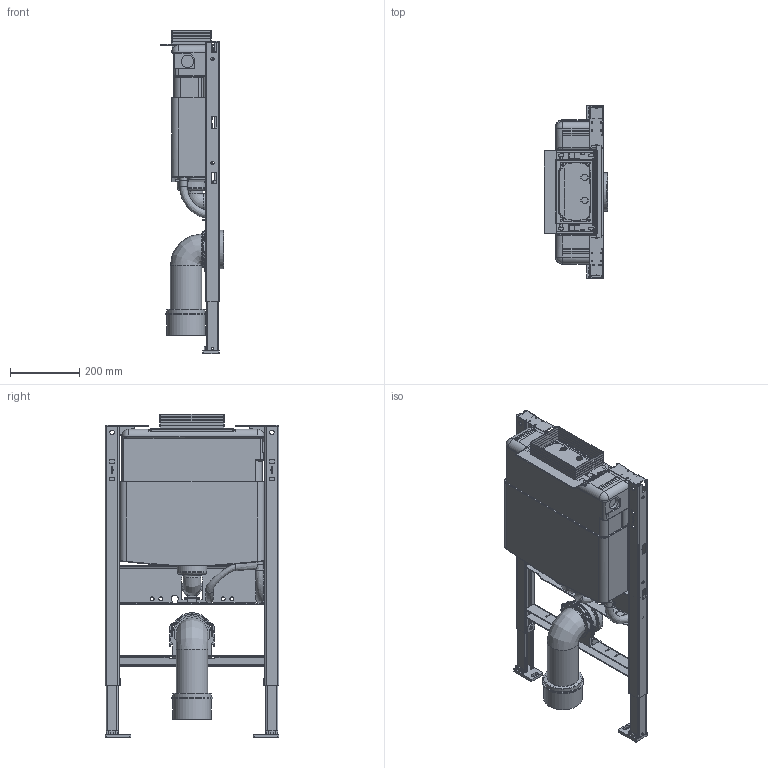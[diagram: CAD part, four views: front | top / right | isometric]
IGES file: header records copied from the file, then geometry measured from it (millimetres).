
Global section: file name: 111003; native system: Autodesk Inventor 2014; preprocessor: unknown; author: seihe2; date: 20141022.083248; units: millimetre
Bounding box: 183.26 x 500 x 932 mm (x, y, z)
Volume: 12239993.9 mm3; surface area: 2485387.7 mm2
Topology: 25 solids, 26 shells, 1818 faces, 4867 edges, 3100 vertices
Faces by surface type: plane 1222, revolution 316, cylinder 238, bspline 25, cone 9, sphere 8
Full cylindrical faces by diameter (mm): 22 x2, 51.7 x3, 59 x1, 73 x1, 85 x2, 90.375 x2, 98.2 x3, 102 x3, 110.4 x1, 111 x1, 112.2 x1, 120 x1
